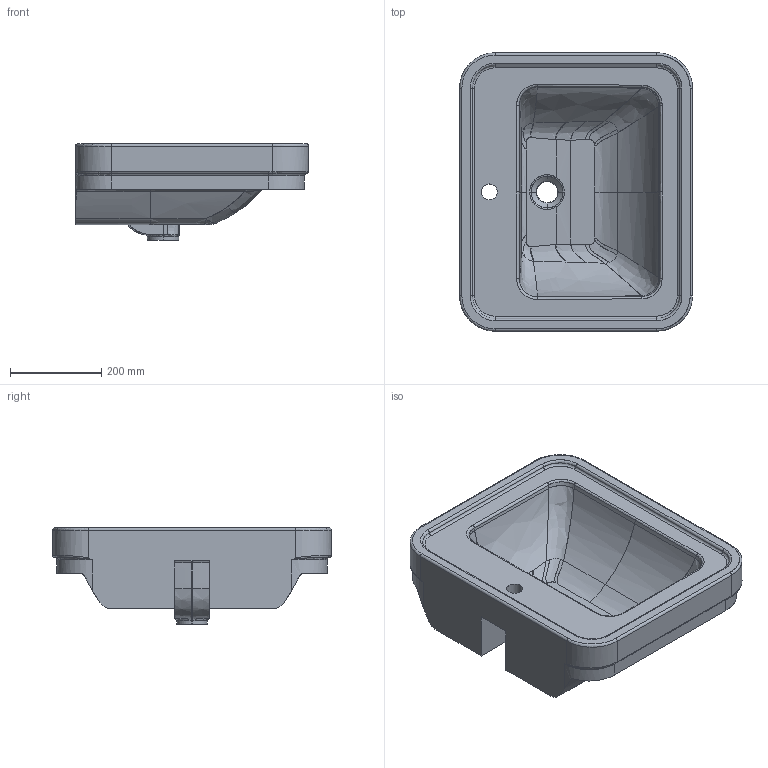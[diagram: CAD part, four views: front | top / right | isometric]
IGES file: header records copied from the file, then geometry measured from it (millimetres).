
Start section: START RECORD GO HERE.
Global section: file name: 8417_3D.igs; native system: DASSAULT SYSTEMES CATIA V5 R19 - www.3ds.com; preprocessor: CATIA Version 5 Release 19 SP 5 ; author: Luca; organization: DESKTOP-V7SON24; date: 20201118.101707; units: millimetre
Bounding box: 510.12 x 609.89 x 211.5 mm (x, y, z)
Surface area: 1054706.6 mm2 (no closed solid volume)
Topology: 0 solids, 0 shells, 240 faces, 1172 edges, 1164 vertices
Faces by surface type: bspline 174, revolution 36, plane 20, extrusion 10
